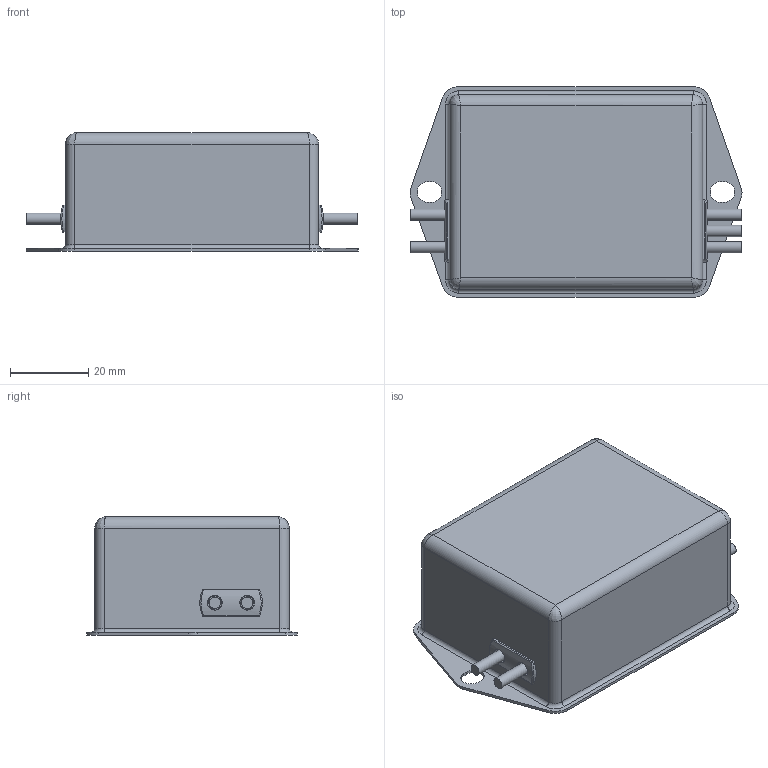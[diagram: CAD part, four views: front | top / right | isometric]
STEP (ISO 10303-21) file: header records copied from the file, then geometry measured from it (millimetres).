
FILE_DESCRIPTION((''),'2;1');
FILE_NAME('P:\Construction\Filter_Marketing\FN\FN2030\FN2030-8..10-07\FN2030-8...10-07.stp','2015-02-11T12:57:52',('erika.jenzer'),(''),'Autodesk Inventor 2013','Autodesk Inventor 2013','');
FILE_SCHEMA(('AUTOMOTIVE_DESIGN { 1 0 10303 214 1 1 1 1 }'));
Length unit declared in the file: millimetre
Products named in the file (1): FN2030-8...10-07
Bounding box: 85 x 54 x 30.3 mm (x, y, z)
Volume: 98343.5 mm3; surface area: 15126.3 mm2
Topology: 1 solids, 1 shells, 85 faces, 199 edges, 125 vertices
Faces by surface type: cylinder 37, plane 31, bspline 8, cone 5, torus 4
Full cylindrical faces by diameter (mm): 2.9 x5
Entity records: 3092 total; most frequent: CARTESIAN_POINT 1118, ORIENTED_EDGE 370, DIRECTION 358, EDGE_CURVE 185, AXIS2_PLACEMENT_3D 137, VERTEX_POINT 125, EDGE_LOOP 112, STYLED_ITEM 86
